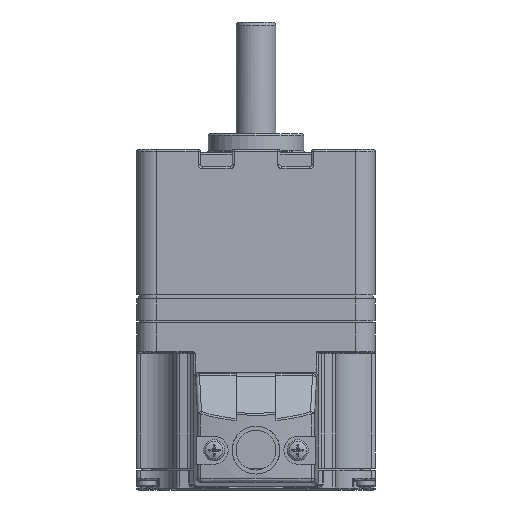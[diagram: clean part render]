
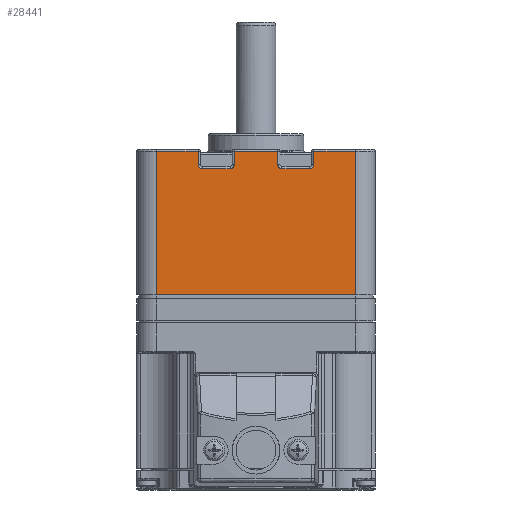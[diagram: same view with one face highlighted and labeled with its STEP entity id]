
A CAD part, front view. The second image highlights one B-rep face of the part: STEP entity #28441.
In plain terms, the highlighted planar face has unit normal (0, -1, 0).
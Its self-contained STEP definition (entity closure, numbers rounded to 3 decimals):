
#25773=CARTESIAN_POINT('',(-5.,0.,16.928));
#25774=VERTEX_POINT('',#25773);
#25782=CARTESIAN_POINT('',(-55.,0.,16.928));
#25783=VERTEX_POINT('',#25782);
#25784=CARTESIAN_POINT('',(-55.,0.,16.928));
#25785=DIRECTION('',(1.0,0.0,0.0));
#25786=VECTOR('',#25785,50.0);
#25787=LINE('',#25784,#25786);
#25788=EDGE_CURVE('',#25783,#25774,#25787,.T.);
#25823=CARTESIAN_POINT('',(-5.,0.,52.928));
#25824=VERTEX_POINT('',#25823);
#25834=CARTESIAN_POINT('',(-5.,0.,52.928));
#25835=DIRECTION('',(0.0,0.0,-1.0));
#25836=VECTOR('',#25835,36.0);
#25837=LINE('',#25834,#25836);
#25838=EDGE_CURVE('',#25824,#25774,#25837,.T.);
#25857=CARTESIAN_POINT('',(-55.,0.,52.928));
#25858=VERTEX_POINT('',#25857);
#25873=CARTESIAN_POINT('',(-55.,0.,16.928));
#25874=DIRECTION('',(0.0,0.0,1.0));
#25875=VECTOR('',#25874,36.0);
#25876=LINE('',#25873,#25875);
#25877=EDGE_CURVE('',#25783,#25858,#25876,.T.);
#28220=CARTESIAN_POINT('',(-24.5,0.,52.928));
#28221=VERTEX_POINT('',#28220);
#28231=CARTESIAN_POINT('',(-24.5,0.,49.628));
#28232=VERTEX_POINT('',#28231);
#28233=CARTESIAN_POINT('',(-24.5,0.,52.928));
#28234=DIRECTION('',(0.0,0.0,-1.0));
#28235=VECTOR('',#28234,3.3);
#28236=LINE('',#28233,#28235);
#28237=EDGE_CURVE('',#28221,#28232,#28236,.T.);
#28261=CARTESIAN_POINT('',(-23.5,0.,48.628));
#28262=VERTEX_POINT('',#28261);
#28263=CARTESIAN_POINT('',(-23.5,0.,49.628));
#28264=DIRECTION('',(0.,-1.0,0.));
#28265=DIRECTION('',(-0.707,0.,-0.707));
#28266=AXIS2_PLACEMENT_3D('',#28263,#28264,#28265);
#28267=CIRCLE('',#28266,1.);
#28268=EDGE_CURVE('',#28232,#28262,#28267,.T.);
#28287=CARTESIAN_POINT('',(-16.5,0.,48.628));
#28288=VERTEX_POINT('',#28287);
#28289=CARTESIAN_POINT('',(-23.5,0.,48.628));
#28290=DIRECTION('',(1.0,0.0,0.0));
#28291=VECTOR('',#28290,7.0);
#28292=LINE('',#28289,#28291);
#28293=EDGE_CURVE('',#28262,#28288,#28292,.T.);
#28312=CARTESIAN_POINT('',(-15.5,0.,49.628));
#28313=VERTEX_POINT('',#28312);
#28314=CARTESIAN_POINT('',(-16.5,0.,49.628));
#28315=DIRECTION('',(0.,-1.0,0.));
#28316=DIRECTION('',(0.707,0.,-0.707));
#28317=AXIS2_PLACEMENT_3D('',#28314,#28315,#28316);
#28318=CIRCLE('',#28317,1.0);
#28319=EDGE_CURVE('',#28288,#28313,#28318,.T.);
#28339=CARTESIAN_POINT('',(-15.5,0.,52.928));
#28340=VERTEX_POINT('',#28339);
#28355=CARTESIAN_POINT('',(-15.5,0.,49.628));
#28356=DIRECTION('',(0.0,0.0,1.0));
#28357=VECTOR('',#28356,3.3);
#28358=LINE('',#28355,#28357);
#28359=EDGE_CURVE('',#28313,#28340,#28358,.T.);
#28364=CARTESIAN_POINT('',(-60.,0.,53.428));
#28365=DIRECTION('',(0.0,-1.0,0.0));
#28366=DIRECTION('',(0.0,0.0,-1.0));
#28367=AXIS2_PLACEMENT_3D('',#28364,#28365,#28366);
#28368=PLANE('',#28367);
#28369=CARTESIAN_POINT('',(-15.5,0.,52.928));
#28370=DIRECTION('',(1.0,0.0,0.0));
#28371=VECTOR('',#28370,10.5);
#28372=LINE('',#28369,#28371);
#28373=EDGE_CURVE('',#28340,#25824,#28372,.T.);
#28374=ORIENTED_EDGE('',*,*,#28373,.F.);
#28375=ORIENTED_EDGE('',*,*,#28359,.F.);
#28376=ORIENTED_EDGE('',*,*,#28319,.F.);
#28377=ORIENTED_EDGE('',*,*,#28293,.F.);
#28378=ORIENTED_EDGE('',*,*,#28268,.F.);
#28379=ORIENTED_EDGE('',*,*,#28237,.F.);
#28380=CARTESIAN_POINT('',(-35.5,0.0,52.928));
#28381=VERTEX_POINT('',#28380);
#28382=CARTESIAN_POINT('',(-35.5,0.,52.928));
#28383=DIRECTION('',(1.0,0.0,0.0));
#28384=VECTOR('',#28383,11.);
#28385=LINE('',#28382,#28384);
#28386=EDGE_CURVE('',#28381,#28221,#28385,.T.);
#28387=ORIENTED_EDGE('',*,*,#28386,.F.);
#28388=CARTESIAN_POINT('',(-35.5,0.0,49.628));
#28389=VERTEX_POINT('',#28388);
#28390=CARTESIAN_POINT('',(-35.5,0.,49.628));
#28391=DIRECTION('',(0.0,0.0,1.0));
#28392=VECTOR('',#28391,3.3);
#28393=LINE('',#28390,#28392);
#28394=EDGE_CURVE('',#28389,#28381,#28393,.T.);
#28395=ORIENTED_EDGE('',*,*,#28394,.F.);
#28396=CARTESIAN_POINT('',(-36.5,0.0,48.628));
#28397=VERTEX_POINT('',#28396);
#28398=CARTESIAN_POINT('',(-36.5,0.0,49.628));
#28399=DIRECTION('',(0.,-1.0,0.));
#28400=DIRECTION('',(0.707,0.,-0.707));
#28401=AXIS2_PLACEMENT_3D('',#28398,#28399,#28400);
#28402=CIRCLE('',#28401,1.);
#28403=EDGE_CURVE('',#28397,#28389,#28402,.T.);
#28404=ORIENTED_EDGE('',*,*,#28403,.F.);
#28405=CARTESIAN_POINT('',(-43.5,0.,48.628));
#28406=VERTEX_POINT('',#28405);
#28407=CARTESIAN_POINT('',(-43.5,0.,48.628));
#28408=DIRECTION('',(1.0,0.0,0.0));
#28409=VECTOR('',#28408,7.0);
#28410=LINE('',#28407,#28409);
#28411=EDGE_CURVE('',#28406,#28397,#28410,.T.);
#28412=ORIENTED_EDGE('',*,*,#28411,.F.);
#28413=CARTESIAN_POINT('',(-44.5,0.,49.628));
#28414=VERTEX_POINT('',#28413);
#28415=CARTESIAN_POINT('',(-43.5,0.,49.628));
#28416=DIRECTION('',(0.,-1.0,0.));
#28417=DIRECTION('',(-0.707,0.,-0.707));
#28418=AXIS2_PLACEMENT_3D('',#28415,#28416,#28417);
#28419=CIRCLE('',#28418,1.0);
#28420=EDGE_CURVE('',#28414,#28406,#28419,.T.);
#28421=ORIENTED_EDGE('',*,*,#28420,.F.);
#28422=CARTESIAN_POINT('',(-44.5,0.,52.928));
#28423=VERTEX_POINT('',#28422);
#28424=CARTESIAN_POINT('',(-44.5,0.,52.928));
#28425=DIRECTION('',(0.0,0.0,-1.0));
#28426=VECTOR('',#28425,3.3);
#28427=LINE('',#28424,#28426);
#28428=EDGE_CURVE('',#28423,#28414,#28427,.T.);
#28429=ORIENTED_EDGE('',*,*,#28428,.F.);
#28430=CARTESIAN_POINT('',(-55.,0.,52.928));
#28431=DIRECTION('',(1.0,0.0,0.0));
#28432=VECTOR('',#28431,10.5);
#28433=LINE('',#28430,#28432);
#28434=EDGE_CURVE('',#25858,#28423,#28433,.T.);
#28435=ORIENTED_EDGE('',*,*,#28434,.F.);
#28436=ORIENTED_EDGE('',*,*,#25877,.F.);
#28437=ORIENTED_EDGE('',*,*,#25788,.T.);
#28438=ORIENTED_EDGE('',*,*,#25838,.F.);
#28439=EDGE_LOOP('',(#28374,#28375,#28376,#28377,#28378,#28379,#28387,#28395,#28404,#28412,#28421,#28429,#28435,#28436,#28437,#28438));
#28440=FACE_OUTER_BOUND('',#28439,.T.);
#28441=ADVANCED_FACE('',(#28440),#28368,.T.);
